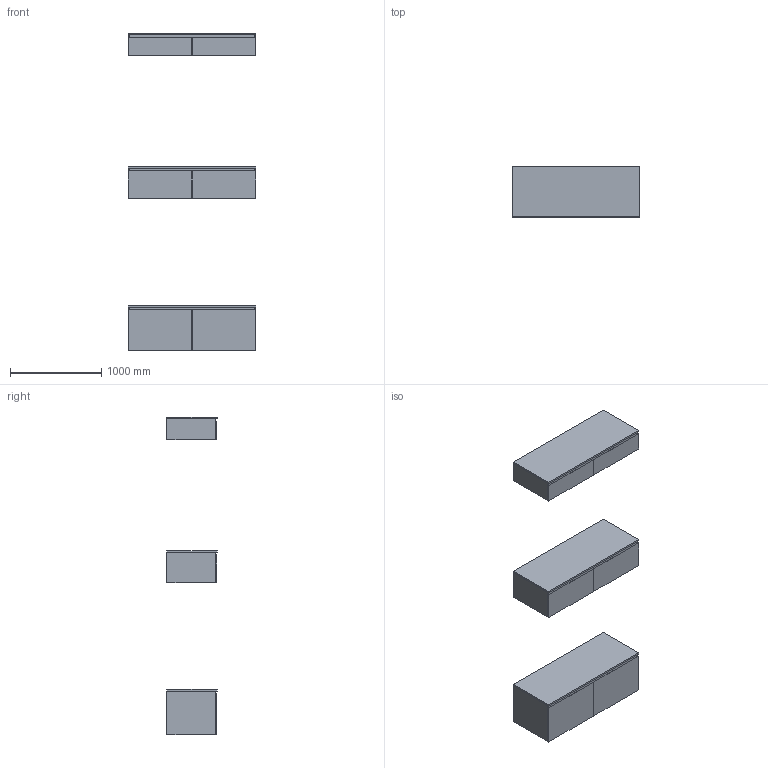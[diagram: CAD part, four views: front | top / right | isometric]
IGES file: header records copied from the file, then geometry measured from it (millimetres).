
Global section: file name: \\Archi-NAS\Comune\X GIOVANNI\MOBILI\EMOTION\EMOTION_2.igs; native system: Rhinoceros ( Feb 23 2021 ); preprocessor: Trout Lake IGES 012 Feb 23 2021; date: 230608.071428; units: millimetre
Bounding box: 1400 x 550 x 3489.82 mm (x, y, z)
Surface area: 25032844.9 mm2 (no closed solid volume)
Topology: 0 solids, 0 shells, 356 faces, 1440 edges, 1440 vertices
Faces by surface type: bspline 356
